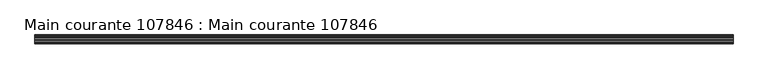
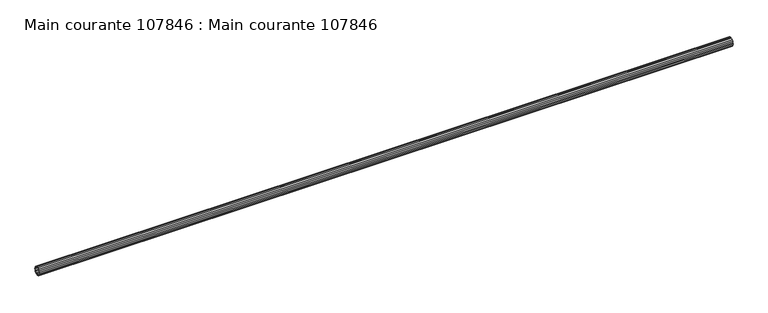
"""IFC4 building model written with IfcOpenShell, lengths in millimetres: beam geometry, Main courante 107846 : Main courante 107846."""

from ifc_helpers import new_model, si_unit, frame, origin, place, context, project, spatial, polyline, outline, extrude, source, transform, mapped, element, save


def main_courante_107846_main_courante_107846_ca8920af(model_context):
    return source(origin(), model_context, "Body", "SweptSolid", [
        extrude(outline(polyline([(-14149.8127604, 9262.9680149), (-14142.35, 9264.15), (-14134.8872396, 9262.9680149), (-14128.1549862, 9259.5377604), (-14122.8122396, 9254.1950138), (-14119.3819851, 9247.4627604), (-14118.2, 9240.0), (-14119.3819851, 9232.5372396), (-14122.8122396, 9225.8049862), (-14128.1549862, 9220.4622396), (-14134.8872396, 9217.0319851), (-14142.35, 9215.85), (-14149.8127604, 9217.0319851), (-14156.5450138, 9220.4622396), (-14161.8877604, 9225.8049862), (-14165.3180149, 9232.5372396), (-14166.5, 9240.0), (-14165.3180149, 9247.4627604), (-14161.8877604, 9254.1950138), (-14156.5450138, 9259.5377604), (-14149.8127604, 9262.9680149)]), holes=[polyline([(-14120.7, 9240.0), (-14121.7596264, 9246.6902179), (-14124.8347821, 9252.7255507), (-14129.6244493, 9257.5152179), (-14135.6597821, 9260.5903736), (-14142.35, 9261.65), (-14149.0402179, 9260.5903736), (-14155.0755507, 9257.5152179), (-14159.8652179, 9252.7255507), (-14162.9403736, 9246.6902179), (-14164.0, 9240.0), (-14162.9403736, 9233.3097821), (-14159.8652179, 9227.2744493), (-14155.0755507, 9222.4847821), (-14149.0402179, 9219.4096264), (-14142.35, 9218.35), (-14135.6597821, 9219.4096264), (-14129.6244493, 9222.4847821), (-14124.8347821, 9227.2744493), (-14121.7596264, 9233.3097821), (-14120.7, 9240.0)])]), frame((11527.2815707, 0.0, 0.0), z_axis=(1.0, 0.0, 0.0), x_axis=(0.0, 1.0, 0.0)), (0.0, 0.0, 1.0), 3862.7184292),
    ])


if __name__ == "__main__":
    model = new_model("IFC4")
    model_context = context("Model", 3, world=origin())
    ifc_project = project(units=[si_unit("LENGTHUNIT", "METRE", prefix="MILLI")], contexts=[model_context])
    site = spatial("IfcSite", under=ifc_project)
    building = spatial("IfcBuilding", under=site)
    placement = place(None, origin())
    main_courante_107846_main_courante_107846_shape = main_courante_107846_main_courante_107846_ca8920af(model_context)
    element("IfcBeam", 1, ObjectType="Main courante 107846 : Main courante 107846", at=placement, inside=building, context=model_context, shape_type="MappedRepresentation", body=[
        mapped(main_courante_107846_main_courante_107846_shape, transform((0.0, 0.0, 0.0), x_axis=(1.0, 0.0, 0.0), y_axis=(0.0, 1.0, 0.0), z_axis=(0.0, 0.0, 1.0))),
    ])
    save(model, "model.ifc")
